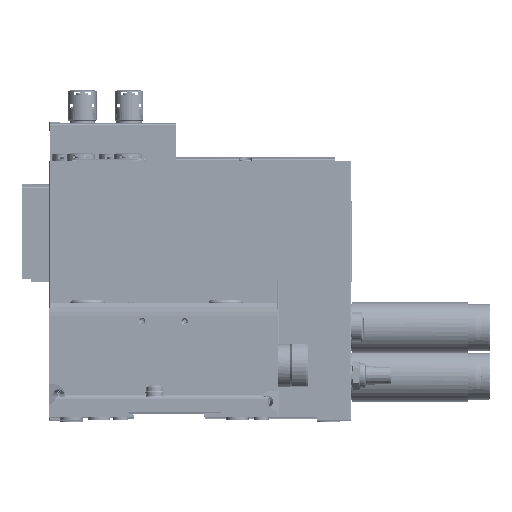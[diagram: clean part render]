
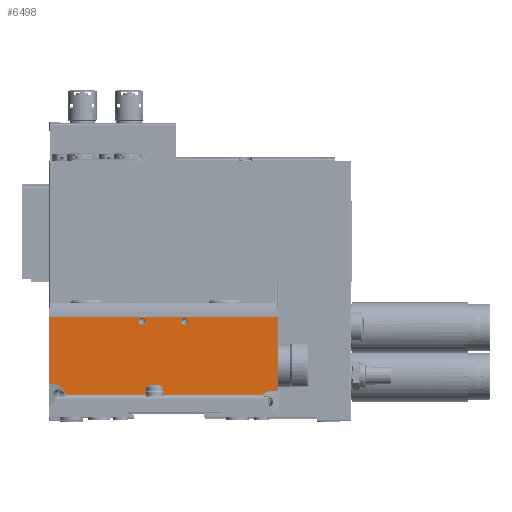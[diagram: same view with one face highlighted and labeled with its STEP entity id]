
A CAD part, top view. The second image highlights one B-rep face of the part: STEP entity #6498.
In plain terms, the highlighted planar face has unit normal (0, 0, 1) as drawn and (-1, 0, 0) by its records, which use the part's own axes.
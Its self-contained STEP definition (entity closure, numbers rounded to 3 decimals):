
#6498 = ADVANCED_FACE( '', ( #15647, #15648, #15649 ), #15650, .F. );
#15647 = FACE_BOUND( '', #28479, .T. );
#15648 = FACE_BOUND( '', #28480, .T. );
#15649 = FACE_OUTER_BOUND( '', #28481, .T. );
#15650 = PLANE( '', #28482 );
#28479 = EDGE_LOOP( '', ( #46487 ) );
#28480 = EDGE_LOOP( '', ( #46488 ) );
#28481 = EDGE_LOOP( '', ( #46489, #46490, #46491, #46492, #46493, #46494, #46495, #46496 ) );
#28482 = AXIS2_PLACEMENT_3D( '', #46497, #46498, #46499 );
#46487 = ORIENTED_EDGE( '', *, *, #71432, .T. );
#46488 = ORIENTED_EDGE( '', *, *, #75271, .T. );
#46489 = ORIENTED_EDGE( '', *, *, #75272, .T. );
#46490 = ORIENTED_EDGE( '', *, *, #75273, .T. );
#46491 = ORIENTED_EDGE( '', *, *, #75274, .F. );
#46492 = ORIENTED_EDGE( '', *, *, #73653, .F. );
#46493 = ORIENTED_EDGE( '', *, *, #75275, .F. );
#46494 = ORIENTED_EDGE( '', *, *, #75276, .T. );
#46495 = ORIENTED_EDGE( '', *, *, #75277, .F. );
#46496 = ORIENTED_EDGE( '', *, *, #75278, .T. );
#46497 = CARTESIAN_POINT( '', ( -15.4, 48.7, 54.05 ) );
#46498 = DIRECTION( '', ( 1., 0., 0. ) );
#46499 = DIRECTION( '', ( 0., 0., -1. ) );
#71432 = EDGE_CURVE( '', #84639, #84639, #84640, .T. );
#73653 = EDGE_CURVE( '', #88476, #88478, #88479, .T. );
#75271 = EDGE_CURVE( '', #91090, #91090, #91091, .T. );
#75272 = EDGE_CURVE( '', #91092, #91093, #91094, .T. );
#75273 = EDGE_CURVE( '', #91093, #91095, #91096, .T. );
#75274 = EDGE_CURVE( '', #88478, #91095, #91097, .F. );
#75275 = EDGE_CURVE( '', #91098, #88476, #91099, .F. );
#75276 = EDGE_CURVE( '', #91098, #91100, #91101, .T. );
#75277 = EDGE_CURVE( '', #91102, #91100, #91103, .T. );
#75278 = EDGE_CURVE( '', #91102, #91092, #91104, .T. );
#84639 = VERTEX_POINT( '', #103757 );
#84640 = CIRCLE( '', #103758, 1.55 );
#88476 = VERTEX_POINT( '', #109249 );
#88478 = VERTEX_POINT( '', #109260 );
#88479 = LINE( '', #109261, #109262 );
#91090 = VERTEX_POINT( '', #113132 );
#91091 = CIRCLE( '', #113133, 1.55 );
#91092 = VERTEX_POINT( '', #113134 );
#91093 = VERTEX_POINT( '', #113135 );
#91094 = LINE( '', #113136, #113137 );
#91095 = VERTEX_POINT( '', #113138 );
#91096 = LINE( '', #113139, #113140 );
#91097 = ELLIPSE( '', #113141, 5.176, 5. );
#91098 = VERTEX_POINT( '', #113142 );
#91099 = ELLIPSE( '', #113143, 5.132, 5. );
#91100 = VERTEX_POINT( '', #113144 );
#91101 = LINE( '', #113145, #113146 );
#91102 = VERTEX_POINT( '', #113147 );
#91103 = LINE( '', #113148, #113149 );
#91104 = LINE( '', #113150, #113151 );
#103757 = CARTESIAN_POINT( '', ( -15.4, 46.55, -11.55 ) );
#103758 = AXIS2_PLACEMENT_3D( '', #128808, #128809, #128810 );
#109249 = CARTESIAN_POINT( '', ( -15.4, 11.6, 46.669 ) );
#109260 = CARTESIAN_POINT( '', ( -15.4, 11.6, -46.319 ) );
#109261 = CARTESIAN_POINT( '', ( -15.4, 11.6, 54.05 ) );
#109262 = VECTOR( '', #131967, 1000. );
#113132 = CARTESIAN_POINT( '', ( -15.4, 46.55, 8.45 ) );
#113133 = AXIS2_PLACEMENT_3D( '', #134043, #134044, #134045 );
#113134 = CARTESIAN_POINT( '', ( -15.4, 48.7, -54.05 ) );
#113135 = CARTESIAN_POINT( '', ( -15.4, 16.8, -54.05 ) );
#113136 = CARTESIAN_POINT( '', ( -15.4, 48.7, -54.05 ) );
#113137 = VECTOR( '', #134046, 1000. );
#113138 = CARTESIAN_POINT( '', ( -15.4, 16.8, -51.491 ) );
#113139 = CARTESIAN_POINT( '', ( -15.4, 16.8, 54.05 ) );
#113140 = VECTOR( '', #134047, 1000. );
#113141 = AXIS2_PLACEMENT_3D( '', #134048, #134049, #134050 );
#113142 = CARTESIAN_POINT( '', ( -15.4, 13.8, 50.92 ) );
#113143 = AXIS2_PLACEMENT_3D( '', #134051, #134052, #134053 );
#113144 = CARTESIAN_POINT( '', ( -15.4, 13.8, 54.05 ) );
#113145 = CARTESIAN_POINT( '', ( -15.4, 13.8, 54.05 ) );
#113146 = VECTOR( '', #134054, 1000. );
#113147 = CARTESIAN_POINT( '', ( -15.4, 48.7, 54.05 ) );
#113148 = CARTESIAN_POINT( '', ( -15.4, 48.7, 54.05 ) );
#113149 = VECTOR( '', #134055, 1000. );
#113150 = CARTESIAN_POINT( '', ( -15.4, 48.7, 54.05 ) );
#113151 = VECTOR( '', #134056, 1000. );
#128808 = CARTESIAN_POINT( '', ( -15.4, 46.55, -10. ) );
#128809 = DIRECTION( '', ( 1., 0., 0. ) );
#128810 = DIRECTION( '', ( 0., 0., -1. ) );
#131967 = DIRECTION( '', ( 0., 0., -1. ) );
#134043 = CARTESIAN_POINT( '', ( -15.4, 46.55, 10. ) );
#134044 = DIRECTION( '', ( 1., 0., 0. ) );
#134045 = DIRECTION( '', ( 0., 0., -1. ) );
#134046 = DIRECTION( '', ( 0., -1., 0. ) );
#134047 = DIRECTION( '', ( 0., 0., 1. ) );
#134048 = CARTESIAN_POINT( '', ( -15.4, 11.8, -51.491 ) );
#134049 = DIRECTION( '', ( 1., 0., 0. ) );
#134050 = DIRECTION( '', ( 0., 0., 1. ) );
#134051 = CARTESIAN_POINT( '', ( -15.4, 8.8, 50.92 ) );
#134052 = DIRECTION( '', ( 1., 0., 0. ) );
#134053 = DIRECTION( '', ( 0., 0., -1. ) );
#134054 = DIRECTION( '', ( 0., 0., 1. ) );
#134055 = DIRECTION( '', ( 0., -1., 0. ) );
#134056 = DIRECTION( '', ( 0., 0., -1. ) );
